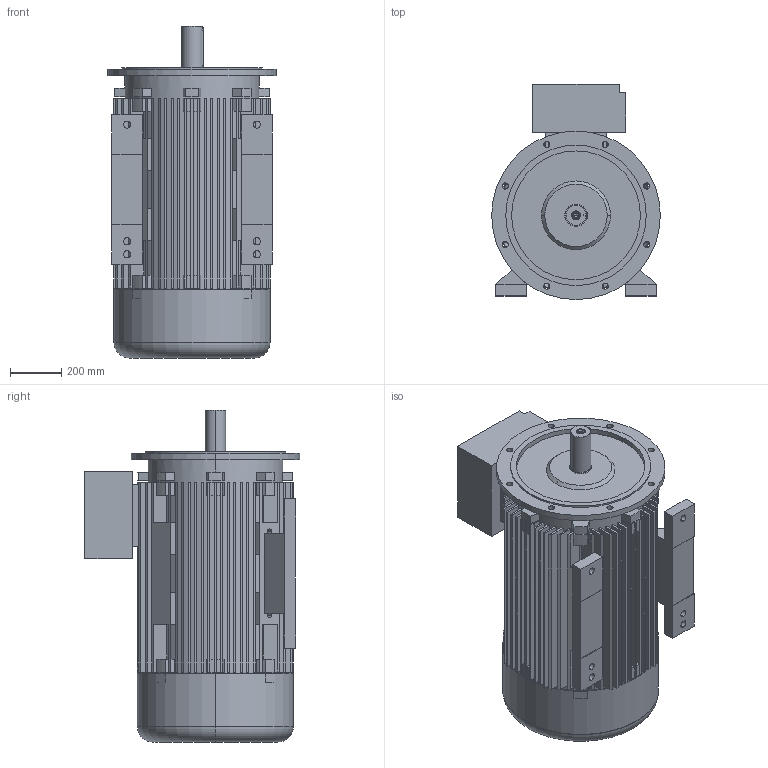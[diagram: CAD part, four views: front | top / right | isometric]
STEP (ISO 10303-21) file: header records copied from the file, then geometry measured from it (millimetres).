
FILE_DESCRIPTION (( 'STEP AP203' ), '1' );
FILE_NAME ('20.18434_C 7AT 315L - 4, -6,-8 B35 Exd STANDK.STEP', '2018-06-26T10:42:01', ( '' ), ( '' ), 'SwSTEP 2.0', 'SolidWorks 2018', '' );
FILE_SCHEMA (( 'CONFIG_CONTROL_DESIGN' ));
Length unit declared in the file: millimetre
Products named in the file (1): 20.18434_C 7AT 315L - 4, -6,-8 B35 Exd STANDK
Bounding box: 660 x 843 x 1300 mm (x, y, z)
Volume: 113873984 mm3; surface area: 11700829.3 mm2
Topology: 7 solids, 7 shells, 852 faces, 2292 edges, 1519 vertices
Faces by surface type: plane 680, cylinder 141, cone 18, bspline 9, torus 4
Entity records: 26874 total; most frequent: CARTESIAN_POINT 4979, ORIENTED_EDGE 4580, DIRECTION 4460, EDGE_CURVE 2290, LINE 1724, VECTOR 1724, VERTEX_POINT 1519, AXIS2_PLACEMENT_3D 1368
